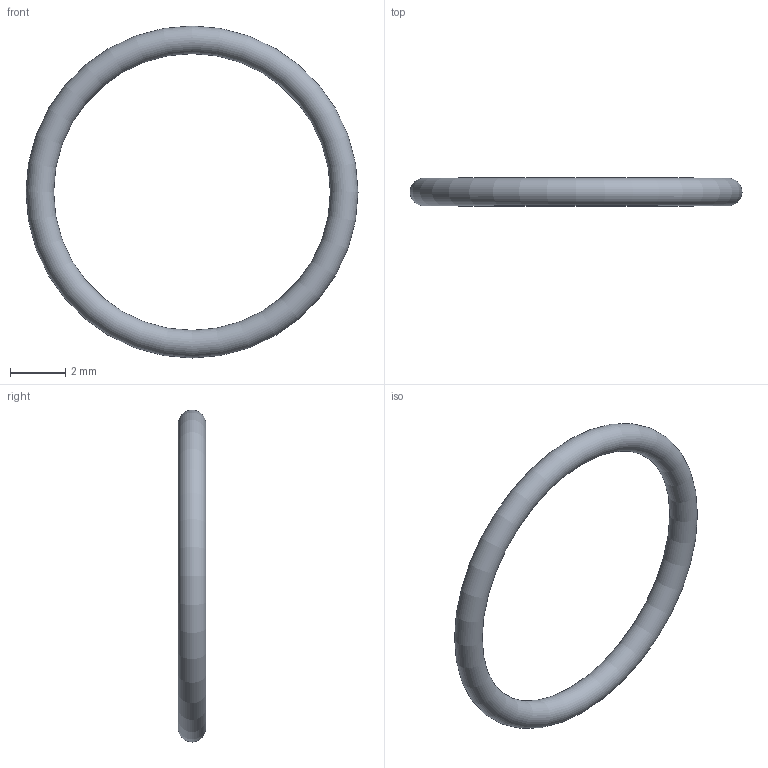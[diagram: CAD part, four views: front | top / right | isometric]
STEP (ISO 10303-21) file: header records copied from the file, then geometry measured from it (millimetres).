
FILE_DESCRIPTION( ( 'STEP AP203' ), '1' );
FILE_NAME( 'C:/Temp/Ganter_Step_05_03_2020/data/3_5/or638/O-Ring OR638-10.00-1.00-70.stp', '2020-03-12T13:44:16', ( 'License CC BY-ND 4.0' ), ( 'CADENAS' ), ' ', 'PARTsolutions', ' ' );
FILE_SCHEMA( ( 'CONFIG_CONTROL_DESIGN' ) );
Length unit declared in the file: millimetre
Products named in the file (1): _O-Ring OR638-10.00-1.00-70
Bounding box: 12 x 1 x 12 mm (x, y, z)
Volume: 27.1 mm3; surface area: 108.6 mm2
Topology: 1 solids, 1 shells, 1 faces, 2 edges, 1 vertices
Faces by surface type: torus 1
Entity records: 62 total; most frequent: CC_DESIGN_PERSON_AND_ORGANIZATION_ASSIGNMENT 5, PERSON_AND_ORGANIZATION_ROLE 4, DIRECTION 4, CARTESIAN_POINT 3, DATE_TIME_ROLE 2, CC_DESIGN_DATE_AND_TIME_ASSIGNMENT 2, AXIS2_PLACEMENT_3D 2, DIMENSIONAL_EXPONENTS 2
